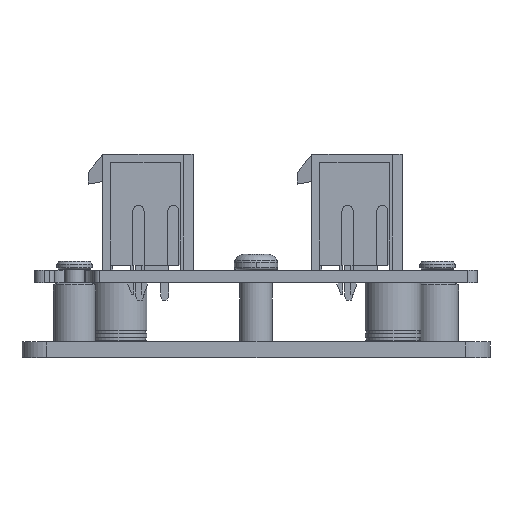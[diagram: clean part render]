
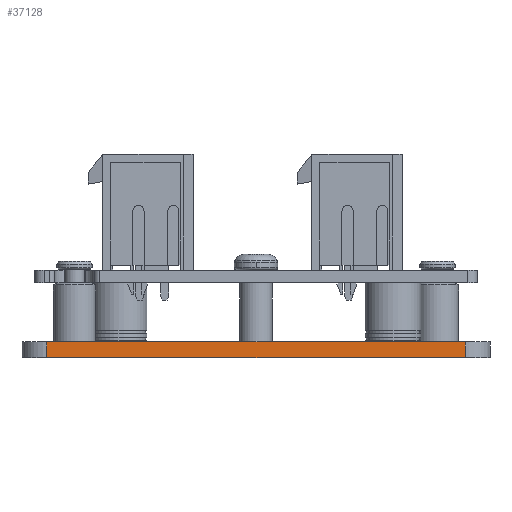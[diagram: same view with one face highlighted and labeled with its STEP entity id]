
A CAD part, left-side view. The second image highlights one B-rep face of the part: STEP entity #37128.
In plain terms, the highlighted planar face has unit normal (-1, 0, 0).
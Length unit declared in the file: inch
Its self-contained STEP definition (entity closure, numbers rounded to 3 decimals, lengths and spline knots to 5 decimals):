
#2030 = AXIS2_PLACEMENT_3D ( 'NONE', #72858, #70118, #66745 ) ;
#3107 = EDGE_CURVE ( 'NONE', #19737, #62573, #67907, .T. ) ;
#4200 = DIRECTION ( 'NONE',  ( 0., 0., -1. ) ) ;
#8881 = DIRECTION ( 'NONE',  ( 0., 0., 1. ) ) ;
#11657 = ORIENTED_EDGE ( 'NONE', *, *, #22222, .T. ) ;
#11852 = EDGE_LOOP ( 'NONE', ( #70037, #40788, #39172, #11657 ) ) ;
#14097 = CARTESIAN_POINT ( 'NONE',  ( -0.12736, 2.16272, -0.36006 ) ) ;
#19737 = VERTEX_POINT ( 'NONE', #14097 ) ;
#20279 = PLANE ( 'NONE',  #2030 ) ;
#22222 = EDGE_CURVE ( 'NONE', #60223, #62573, #32330, .T. ) ;
#25129 = CARTESIAN_POINT ( 'NONE',  ( -0.12736, 0.06272, -0.36006 ) ) ;
#29673 = LINE ( 'NONE', #59627, #34773 ) ;
#30878 = EDGE_CURVE ( 'NONE', #53362, #60223, #35642, .T. ) ;
#32330 = LINE ( 'NONE', #46101, #47010 ) ;
#33827 = VECTOR ( 'NONE', #66489, 39.37008 ) ;
#34773 = VECTOR ( 'NONE', #4200, 39.37008 ) ;
#35642 = LINE ( 'NONE', #73803, #33827 ) ;
#37069 = DIRECTION ( 'NONE',  ( 0., -1., 0. ) ) ;
#37128 = ADVANCED_FACE ( 'NONE', ( #50641 ), #20279, .T. ) ;
#39172 = ORIENTED_EDGE ( 'NONE', *, *, #30878, .T. ) ;
#40788 = ORIENTED_EDGE ( 'NONE', *, *, #49012, .T. ) ;
#43789 = CARTESIAN_POINT ( 'NONE',  ( -0.12736, 0.06272, -0.4388 ) ) ;
#46101 = CARTESIAN_POINT ( 'NONE',  ( -0.12736, 0.06272, -0.4388 ) ) ;
#47010 = VECTOR ( 'NONE', #8881, 39.37008 ) ;
#49012 = EDGE_CURVE ( 'NONE', #19737, #53362, #29673, .T. ) ;
#50641 = FACE_OUTER_BOUND ( 'NONE', #11852, .T. ) ;
#53362 = VERTEX_POINT ( 'NONE', #70679 ) ;
#59627 = CARTESIAN_POINT ( 'NONE',  ( -0.12736, 2.16272, -0.4388 ) ) ;
#60223 = VERTEX_POINT ( 'NONE', #43789 ) ;
#62573 = VERTEX_POINT ( 'NONE', #25129 ) ;
#66489 = DIRECTION ( 'NONE',  ( 0., -1., 0. ) ) ;
#66745 = DIRECTION ( 'NONE',  ( 0., -1., 0. ) ) ;
#67907 = LINE ( 'NONE', #75619, #72674 ) ;
#70037 = ORIENTED_EDGE ( 'NONE', *, *, #3107, .F. ) ;
#70118 = DIRECTION ( 'NONE',  ( -1., 0., 0. ) ) ;
#70679 = CARTESIAN_POINT ( 'NONE',  ( -0.12736, 2.16272, -0.4388 ) ) ;
#72674 = VECTOR ( 'NONE', #37069, 39.37008 ) ;
#72858 = CARTESIAN_POINT ( 'NONE',  ( -0.12736, 2.28772, -0.4388 ) ) ;
#73803 = CARTESIAN_POINT ( 'NONE',  ( -0.12736, 2.28772, -0.4388 ) ) ;
#75619 = CARTESIAN_POINT ( 'NONE',  ( -0.12736, 2.28772, -0.36006 ) ) ;
